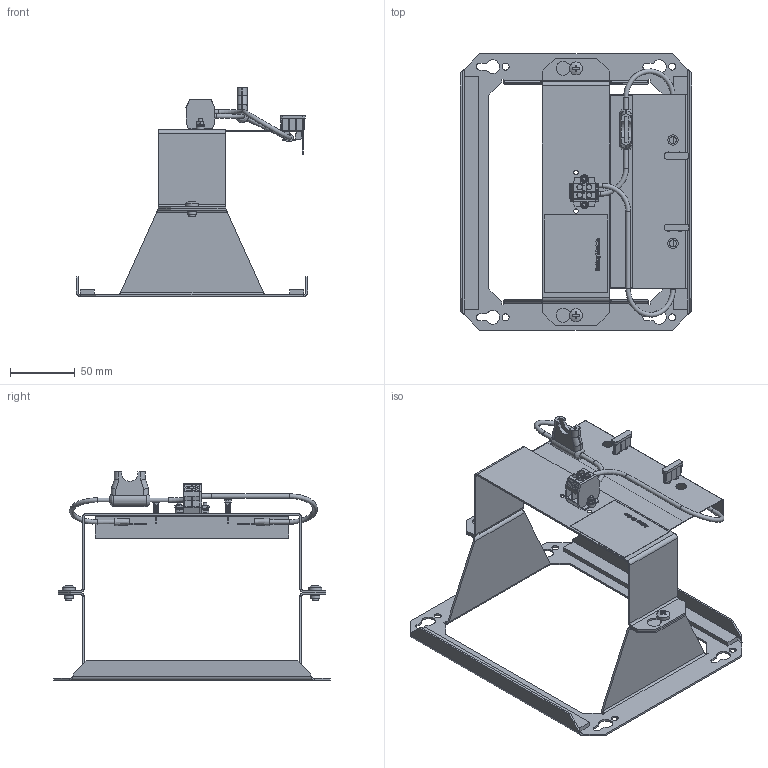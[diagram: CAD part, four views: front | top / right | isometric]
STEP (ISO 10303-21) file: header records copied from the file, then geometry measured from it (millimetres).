
FILE_DESCRIPTION((''),'2;1');
FILE_NAME('C:\Users\rahns\Desktop\Marketing\Proi2\SD1UZO12-26SR1_SC_2014-07-09.stp','2014-07-09T14:47:01',('rahns'),(''),'Autodesk Inventor 2009','Autodesk Inventor 2009','');
FILE_SCHEMA(('AUTOMOTIVE_DESIGN { 1 0 10303 214 1 1 1 1 }'));
Length unit declared in the file: millimetre
Products named in the file (19): 359; WALL MOUNT 359; BATTERY BRACKET 359; FUSE; INSOLATION FOIL 359; SCREW M5x8; WIRE RED 359; TEMINAL 359; FUSE HOLDER 359; WIRE BLACK 359; TERMINAL 359; SCREW 3x10; NUT M3; SPRING M3; WASHER 3; FRONTFOIL 359; EA-Tape_EPDM-10 (groß)
Assembly tree (26 placements, depth 3):
  359
    WALL MOUNT 359
    BATTERY BRACKET 359
    FUSE  x2
    INSOLATION FOIL 359
    SCREW M5x8  x2
    WIRE RED 359
      TEMINAL 359
      FUSE HOLDER 359
      WIRE RED 359
    WIRE BLACK 359
      TEMINAL 359
      WIRE BLACK 359
    TERMINAL 359
    SCREW 3x10  x2
    NUT M3  x2
    SPRING M3  x2
    WASHER 3  x2
    FRONTFOIL 359
    EA-Tape_EPDM-10 (groß)  x2
Bounding box: 179 x 214 x 161.45 mm (x, y, z)
Volume: 109209.8 mm3; surface area: 153883.3 mm2
Topology: 26 solids, 26 shells, 996 faces, 2606 edges, 1705 vertices
Faces by surface type: plane 616, cylinder 181, bspline 149, cone 36, torus 12, sphere 2
Full cylindrical faces by diameter (mm): 2.693 x2, 3 x2, 3.2 x2, 3.6 x6, 4 x2, 4.1 x4, 4.3 x4, 5 x4, 5.4 x6, 5.5 x6, 6 x2, 7 x2, 8 x2, 10 x2
Entity records: 27658 total; most frequent: CARTESIAN_POINT 7410, ORIENTED_EDGE 4204, DIRECTION 3635, EDGE_CURVE 2102, VECTOR 1493, LINE 1493, VERTEX_POINT 1417, AXIS2_PLACEMENT_3D 1071
